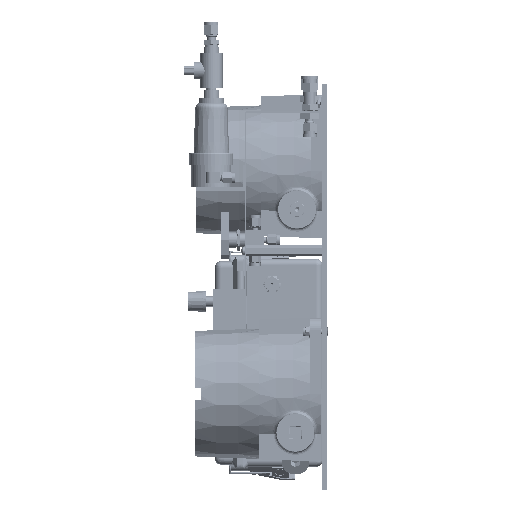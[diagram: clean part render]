
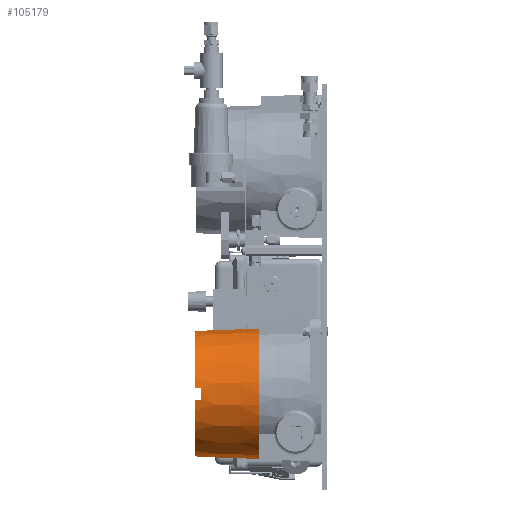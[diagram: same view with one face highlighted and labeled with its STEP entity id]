
A CAD part, left-side view. The second image highlights one B-rep face of the part: STEP entity #105179.
In plain terms, the highlighted conical face has half-angle 2 degrees and reference radius 65.278 mm.
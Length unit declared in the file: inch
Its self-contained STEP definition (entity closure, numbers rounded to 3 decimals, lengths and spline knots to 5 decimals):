
#5646 = CONICAL_SURFACE ( 'NONE', #110210, 2.57, 0.035 ) ;
#11977 = CARTESIAN_POINT ( 'NONE',  ( 2.48674, 5.22, 4.42773 ) ) ;
#13655 = DIRECTION ( 'NONE',  ( 0., 0., -1. ) ) ;
#13708 = CARTESIAN_POINT ( 'NONE',  ( 0.25124, 5.22, 1.72224 ) ) ;
#14595 = EDGE_CURVE ( 'NONE', #305967, #212278, #392516, .T. ) ;
#18448 = CARTESIAN_POINT ( 'NONE',  ( 2.72174, 4.97, -0.53314 ) ) ;
#24397 = ORIENTED_EDGE ( 'NONE', *, *, #234827, .F. ) ;
#24484 = DIRECTION ( 'NONE',  ( 0., 0., -1. ) ) ;
#24623 = CARTESIAN_POINT ( 'NONE',  ( 2.48674, 5.22, 4.42773 ) ) ;
#28143 = CARTESIAN_POINT ( 'NONE',  ( 0.24859, 5.13667, 2.19515 ) ) ;
#29969 = AXIS2_PLACEMENT_3D ( 'NONE', #120626, #422311, #223279 ) ;
#33087 = DIRECTION ( 'NONE',  ( 0., 1., 0. ) ) ;
#33446 = CARTESIAN_POINT ( 'NONE',  ( 0.24331, 4.97, 1.71351 ) ) ;
#34595 = AXIS2_PLACEMENT_3D ( 'NONE', #332555, #33087, #24484 ) ;
#45134 = DIRECTION ( 'NONE',  ( 0., -1., 0. ) ) ;
#49458 = DIRECTION ( 'NONE',  ( 0., 0., -1. ) ) ;
#55082 = CARTESIAN_POINT ( 'NONE',  ( 2.72174, 2.69, 1.95724 ) ) ;
#55135 = CARTESIAN_POINT ( 'NONE',  ( 0.24331, 4.97, 1.71351 ) ) ;
#56001 = VERTEX_POINT ( 'NONE', #11977 ) ;
#56551 = VECTOR ( 'NONE', #125650, 39.37008 ) ;
#59608 = CARTESIAN_POINT ( 'NONE',  ( 2.47801, 4.97, 4.43566 ) ) ;
#63652 = DIRECTION ( 'NONE',  ( 0., 1., 0. ) ) ;
#64087 = ORIENTED_EDGE ( 'NONE', *, *, #356952, .T. ) ;
#73603 = CARTESIAN_POINT ( 'NONE',  ( 2.72174, 2.69, 1.95724 ) ) ;
#78665 = CIRCLE ( 'NONE', #29969, 2.48165 ) ;
#80080 = FACE_OUTER_BOUND ( 'NONE', #252234, .T. ) ;
#95700 = CARTESIAN_POINT ( 'NONE',  ( 2.47801, 4.97, -0.52119 ) ) ;
#98625 = CIRCLE ( 'NONE', #224363, 2.49038 ) ;
#99128 = B_SPLINE_CURVE_WITH_KNOTS ( 'NONE', 3,
 ( #146042, #340754, #176693, #371434 ),
 .UNSPECIFIED., .F., .F.,
 ( 4, 4 ),
 ( 0., 0.00636 ),
 .UNSPECIFIED. ) ;
#100195 = CARTESIAN_POINT ( 'NONE',  ( 0.25124, 5.22, 2.19224 ) ) ;
#101141 = ORIENTED_EDGE ( 'NONE', *, *, #181234, .F. ) ;
#105179 = ADVANCED_FACE ( 'NONE', ( #80080 ), #5646, .T. ) ;
#110210 = AXIS2_PLACEMENT_3D ( 'NONE', #73603, #45134, #49458 ) ;
#114931 = VERTEX_POINT ( 'NONE', #191369 ) ;
#120626 = CARTESIAN_POINT ( 'NONE',  ( 2.72174, 5.22, 1.95724 ) ) ;
#125650 = DIRECTION ( 'NONE',  ( 0., -0.999, 0.035 ) ) ;
#129684 = DIRECTION ( 'NONE',  ( 0., 0., -1. ) ) ;
#134774 = ORIENTED_EDGE ( 'NONE', *, *, #352744, .F. ) ;
#136177 = VERTEX_POINT ( 'NONE', #33446 ) ;
#140408 = CIRCLE ( 'NONE', #259056, 2.57 ) ;
#146042 = CARTESIAN_POINT ( 'NONE',  ( 2.47801, 4.97, -0.52119 ) ) ;
#161796 = EDGE_CURVE ( 'NONE', #383372, #384038, #98625, .T. ) ;
#164086 = CARTESIAN_POINT ( 'NONE',  ( 2.72174, 4.97, 1.95724 ) ) ;
#174581 = EDGE_CURVE ( 'NONE', #426271, #264478, #295493, .T. ) ;
#176693 = CARTESIAN_POINT ( 'NONE',  ( 2.48383, 5.13667, -0.51591 ) ) ;
#177939 = ORIENTED_EDGE ( 'NONE', *, *, #340126, .T. ) ;
#181234 = EDGE_CURVE ( 'NONE', #274612, #114931, #241661, .T. ) ;
#190576 = CARTESIAN_POINT ( 'NONE',  ( 0.24331, 4.97, 2.20097 ) ) ;
#191211 = LINE ( 'NONE', #324591, #56551 ) ;
#191369 = CARTESIAN_POINT ( 'NONE',  ( 0.25124, 5.22, 1.72224 ) ) ;
#192850 = CARTESIAN_POINT ( 'NONE',  ( 2.48092, 5.05333, 4.43302 ) ) ;
#193098 = DIRECTION ( 'NONE',  ( 0., 1., 0. ) ) ;
#196018 = CARTESIAN_POINT ( 'NONE',  ( 2.47801, 4.97, 4.43566 ) ) ;
#212278 = VERTEX_POINT ( 'NONE', #338474 ) ;
#221610 = ORIENTED_EDGE ( 'NONE', *, *, #281299, .F. ) ;
#223273 = DIRECTION ( 'NONE',  ( 0., 0., -1. ) ) ;
#223279 = DIRECTION ( 'NONE',  ( 0., 0., -1. ) ) ;
#224363 = AXIS2_PLACEMENT_3D ( 'NONE', #356713, #321701, #223273 ) ;
#226250 = CARTESIAN_POINT ( 'NONE',  ( 2.72174, 4.97, 4.44762 ) ) ;
#227649 = AXIS2_PLACEMENT_3D ( 'NONE', #298004, #193098, #129684 ) ;
#234827 = EDGE_CURVE ( 'NONE', #136177, #305967, #418817, .T. ) ;
#238860 = ORIENTED_EDGE ( 'NONE', *, *, #14595, .F. ) ;
#241661 = CIRCLE ( 'NONE', #227649, 2.48165 ) ;
#246921 = ORIENTED_EDGE ( 'NONE', *, *, #161796, .F. ) ;
#252234 = EDGE_LOOP ( 'NONE', ( #221610, #416746, #384698, #258744, #238860, #24397, #64087, #101141, #134774, #246921, #177939, #359260 ) ) ;
#257060 = EDGE_CURVE ( 'NONE', #426271, #56001, #414319, .T. ) ;
#258744 = ORIENTED_EDGE ( 'NONE', *, *, #412960, .F. ) ;
#259056 = AXIS2_PLACEMENT_3D ( 'NONE', #55082, #378797, #13655 ) ;
#264478 = VERTEX_POINT ( 'NONE', #226250 ) ;
#268012 = VERTEX_POINT ( 'NONE', #268014 ) ;
#268014 = CARTESIAN_POINT ( 'NONE',  ( 2.72174, 2.69, -0.61276 ) ) ;
#274612 = VERTEX_POINT ( 'NONE', #379285 ) ;
#278254 = CARTESIAN_POINT ( 'NONE',  ( 0.24595, 5.05333, 1.71642 ) ) ;
#281299 = EDGE_CURVE ( 'NONE', #264478, #413478, #191211, .T. ) ;
#282532 = DIRECTION ( 'NONE',  ( 0., -0.999, -0.035 ) ) ;
#295493 = CIRCLE ( 'NONE', #351385, 2.49038 ) ;
#296978 = CARTESIAN_POINT ( 'NONE',  ( 0.24595, 5.05333, 2.19806 ) ) ;
#298004 = CARTESIAN_POINT ( 'NONE',  ( 2.72174, 5.22, 1.95724 ) ) ;
#305967 = VERTEX_POINT ( 'NONE', #190576 ) ;
#313183 = CARTESIAN_POINT ( 'NONE',  ( 2.72174, 2.69, -0.61276 ) ) ;
#321701 = DIRECTION ( 'NONE',  ( 0., 1., 0. ) ) ;
#324591 = CARTESIAN_POINT ( 'NONE',  ( 2.72174, 2.69, 4.52724 ) ) ;
#328404 = CARTESIAN_POINT ( 'NONE',  ( 2.48383, 5.13667, 4.43038 ) ) ;
#331240 = B_SPLINE_CURVE_WITH_KNOTS ( 'NONE', 3,
 ( #55135, #278254, #411671, #13708 ),
 .UNSPECIFIED., .F., .F.,
 ( 4, 4 ),
 ( 0., 0.00636 ),
 .UNSPECIFIED. ) ;
#332555 = CARTESIAN_POINT ( 'NONE',  ( 2.72174, 4.97, 1.95724 ) ) ;
#338474 = CARTESIAN_POINT ( 'NONE',  ( 0.25124, 5.22, 2.19224 ) ) ;
#340126 = EDGE_CURVE ( 'NONE', #383372, #268012, #415924, .T. ) ;
#340754 = CARTESIAN_POINT ( 'NONE',  ( 2.48092, 5.05333, -0.51855 ) ) ;
#351385 = AXIS2_PLACEMENT_3D ( 'NONE', #164086, #63652, #393806 ) ;
#352744 = EDGE_CURVE ( 'NONE', #384038, #274612, #99128, .T. ) ;
#356713 = CARTESIAN_POINT ( 'NONE',  ( 2.72174, 4.97, 1.95724 ) ) ;
#356952 = EDGE_CURVE ( 'NONE', #136177, #114931, #331240, .T. ) ;
#359260 = ORIENTED_EDGE ( 'NONE', *, *, #386099, .T. ) ;
#366933 = CARTESIAN_POINT ( 'NONE',  ( 0.24331, 4.97, 2.20097 ) ) ;
#367585 = VECTOR ( 'NONE', #282532, 39.37008 ) ;
#371434 = CARTESIAN_POINT ( 'NONE',  ( 2.48674, 5.22, -0.51326 ) ) ;
#378797 = DIRECTION ( 'NONE',  ( 0., 1., 0. ) ) ;
#379285 = CARTESIAN_POINT ( 'NONE',  ( 2.48674, 5.22, -0.51326 ) ) ;
#383372 = VERTEX_POINT ( 'NONE', #18448 ) ;
#384038 = VERTEX_POINT ( 'NONE', #95700 ) ;
#384698 = ORIENTED_EDGE ( 'NONE', *, *, #257060, .T. ) ;
#386099 = EDGE_CURVE ( 'NONE', #268012, #413478, #140408, .T. ) ;
#392516 = B_SPLINE_CURVE_WITH_KNOTS ( 'NONE', 3,
 ( #366933, #296978, #28143, #100195 ),
 .UNSPECIFIED., .F., .F.,
 ( 4, 4 ),
 ( 0., 0.00636 ),
 .UNSPECIFIED. ) ;
#393806 = DIRECTION ( 'NONE',  ( 0., 0., -1. ) ) ;
#411671 = CARTESIAN_POINT ( 'NONE',  ( 0.24859, 5.13667, 1.71933 ) ) ;
#412960 = EDGE_CURVE ( 'NONE', #212278, #56001, #78665, .T. ) ;
#413478 = VERTEX_POINT ( 'NONE', #432510 ) ;
#414319 = B_SPLINE_CURVE_WITH_KNOTS ( 'NONE', 3,
 ( #59608, #192850, #328404, #24623 ),
 .UNSPECIFIED., .F., .F.,
 ( 4, 4 ),
 ( 0., 0.00636 ),
 .UNSPECIFIED. ) ;
#415924 = LINE ( 'NONE', #313183, #367585 ) ;
#416746 = ORIENTED_EDGE ( 'NONE', *, *, #174581, .F. ) ;
#418817 = CIRCLE ( 'NONE', #34595, 2.49038 ) ;
#422311 = DIRECTION ( 'NONE',  ( 0., 1., 0. ) ) ;
#426271 = VERTEX_POINT ( 'NONE', #196018 ) ;
#432510 = CARTESIAN_POINT ( 'NONE',  ( 2.72174, 2.69, 4.52724 ) ) ;
